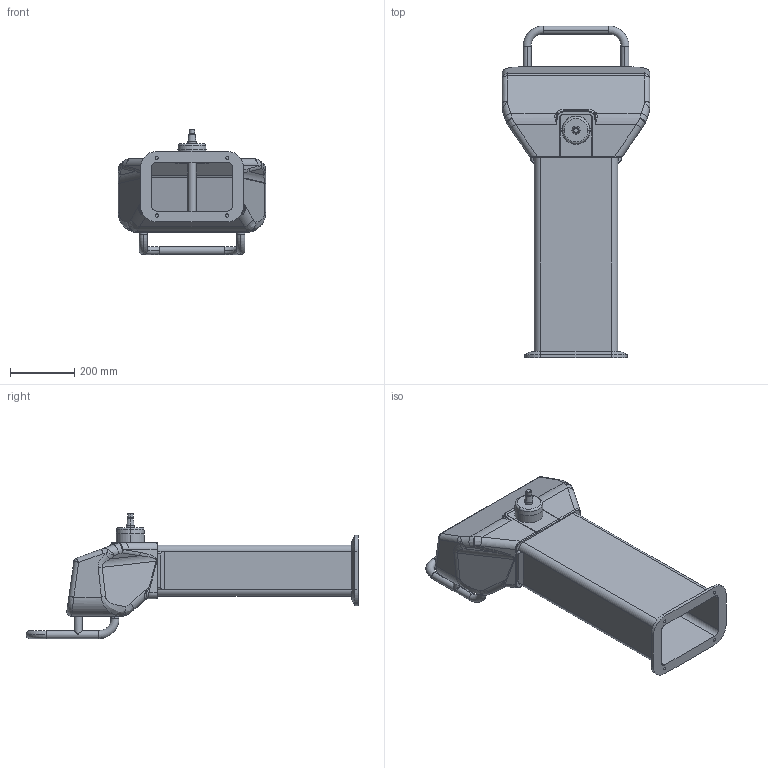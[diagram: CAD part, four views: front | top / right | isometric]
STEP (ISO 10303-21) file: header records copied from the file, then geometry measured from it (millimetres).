
FILE_DESCRIPTION (( 'STEP AP214' ), '1' );
FILE_NAME ('RP300-71.STEP', '2014-09-09T09:33:23', ( '' ), ( '' ), 'SwSTEP 2.0', 'SolidWorks 2014', '' );
FILE_SCHEMA (( 'AUTOMOTIVE_DESIGN' ));
Length unit declared in the file: millimetre
Products named in the file (1): RP300-71
Bounding box: 460 x 1035.41 x 390.75 mm (x, y, z)
Volume: 4699369.8 mm3; surface area: 2036223.3 mm2
Topology: 1 solids, 4 shells, 375 faces, 894 edges, 519 vertices
Faces by surface type: cylinder 161, bspline 88, plane 74, torus 24, sphere 16, cone 12
Entity records: 15665 total; most frequent: CARTESIAN_POINT 6829, ORIENTED_EDGE 1752, DIRECTION 1587, EDGE_CURVE 876, AXIS2_PLACEMENT_3D 636, VERTEX_POINT 519, EDGE_LOOP 391, FACE_OUTER_BOUND 375
